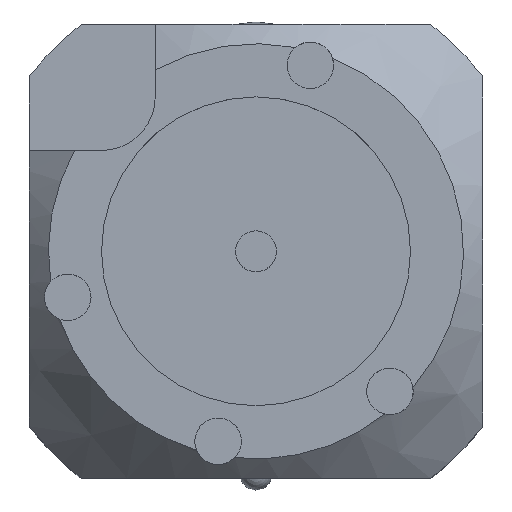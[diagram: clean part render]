
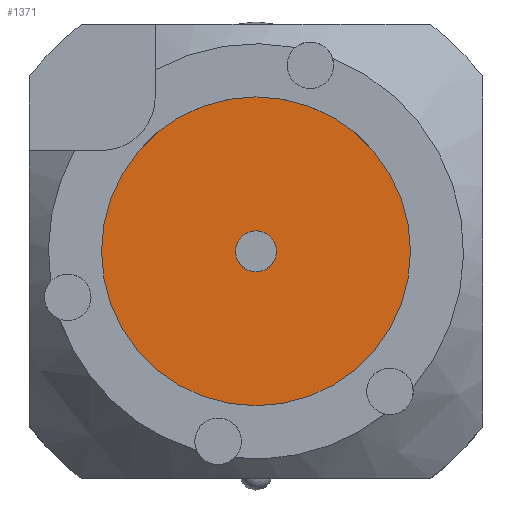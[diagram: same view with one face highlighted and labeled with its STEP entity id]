
A CAD part, top view. The second image highlights one B-rep face of the part: STEP entity #1371.
In plain terms, the highlighted planar face has unit normal (0, 0, 1).
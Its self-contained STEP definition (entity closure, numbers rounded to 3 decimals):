
#883=FACE_BOUND('',#1659,.T.);
#884=FACE_BOUND('',#1660,.T.);
#1371=ADVANCED_FACE('',(#883,#884),#1462,.F.);
#1462=PLANE('',#3284);
#1659=EDGE_LOOP('',(#2228));
#1660=EDGE_LOOP('',(#2229));
#2228=ORIENTED_EDGE('',*,*,#2984,.F.);
#2229=ORIENTED_EDGE('',*,*,#2985,.F.);
#2659=VERTEX_POINT('',#4899);
#2660=VERTEX_POINT('',#4902);
#2984=EDGE_CURVE('',#2659,#2659,#3129,.T.);
#2985=EDGE_CURVE('',#2660,#2660,#3130,.T.);
#3129=CIRCLE('',#3280,2.75);
#3130=CIRCLE('',#3282,20.76);
#3280=AXIS2_PLACEMENT_3D('',#4898,#3687,#3688);
#3282=AXIS2_PLACEMENT_3D('',#4901,#3691,#3692);
#3284=AXIS2_PLACEMENT_3D('',#4904,#3695,#3696);
#3687=DIRECTION('',(0.,0.,1.));
#3688=DIRECTION('',(-1.,0.,0.));
#3691=DIRECTION('',(0.,0.,-1.));
#3692=DIRECTION('',(1.,0.,0.));
#3695=DIRECTION('',(0.,0.,-1.));
#3696=DIRECTION('',(1.,0.,0.));
#4898=CARTESIAN_POINT('',(0.,0.,0.));
#4899=CARTESIAN_POINT('',(-2.75,0.,0.));
#4901=CARTESIAN_POINT('',(0.,0.,0.));
#4902=CARTESIAN_POINT('',(20.76,0.,0.));
#4904=CARTESIAN_POINT('',(0.,0.,0.));
